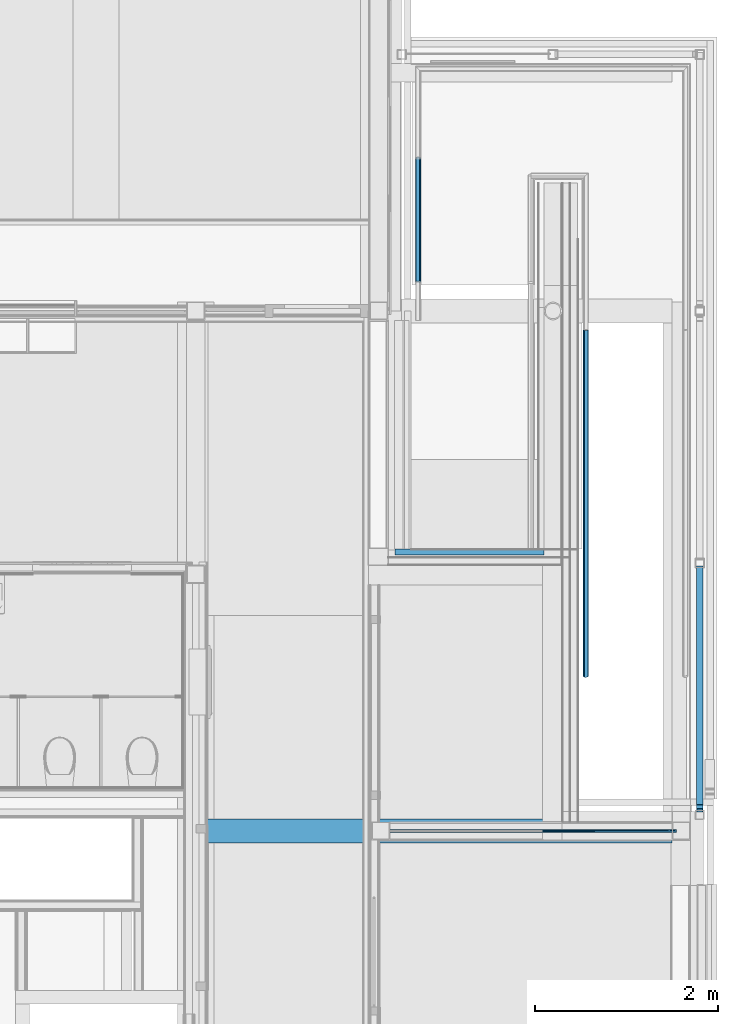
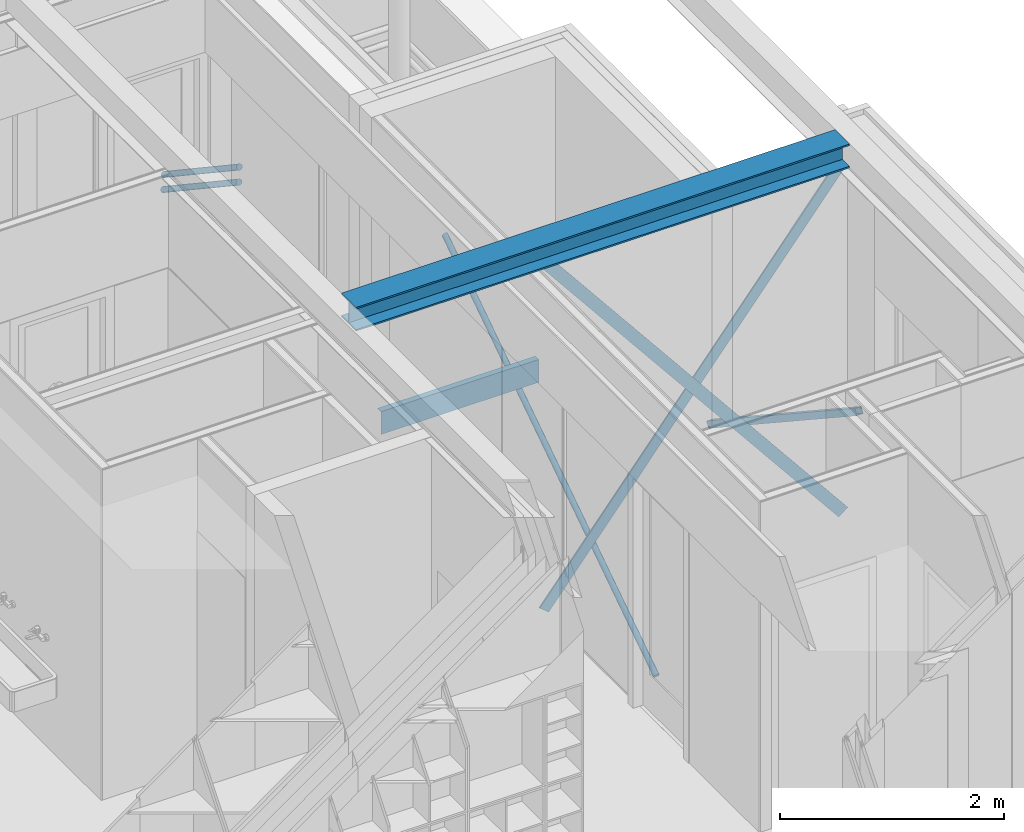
# One storey, part 23 of 137: 5 beams, 3 members, 2 elements without a shape of their own.
"""IFC2X3 building model written with IfcOpenShell, lengths in millimetres."""

import ifcopenshell
import ifcopenshell.guid

model = None  # the IFC model being written
_history = None  # IfcOwnerHistory: only IFC2X3 demands one
_inside = {}  # id of a spatial element -> (the spatial element, [elements in it])
_under = {}  # id of a project, library or spatial element -> (it, [spatial elements below it])
_declared = {}  # id of a project -> (the project, [libraries it declares])
_typed = {}  # id of a type object -> (the type object, [elements of that type])
_made_of = {}  # id of a material, layer set ... -> (it, [elements and type objects made of it])


def new_model(schema):
    """Start an empty IFC model of exactly this schema.

    Asked for "IFC4X3", IfcOpenShell would pick the latest addendum, in which some entities
    have other attributes; the version numbers below select the first issue.
    IFC2X3 requires an IfcOwnerHistory on every rooted entity: one is made here for all.
    """
    global model, _history
    if schema == "IFC4X3":
        model = ifcopenshell.file(schema_version=(4, 3, 0, 0))
    else:
        model = ifcopenshell.file(schema=schema)
    _inside.clear()
    _under.clear()
    _declared.clear()
    _typed.clear()
    _made_of.clear()
    _history = None
    if model.schema == "IFC2X3":
        org = make("IfcOrganization", Name="unknown")
        user = make(
            "IfcPersonAndOrganization",
            ThePerson=make("IfcPerson", FamilyName="unknown"),
            TheOrganization=org,
        )
        app = make(
            "IfcApplication",
            ApplicationDeveloper=org,
            Version="unknown",
            ApplicationFullName="unknown",
            ApplicationIdentifier="unknown",
        )
        _history = make(
            "IfcOwnerHistory",
            OwningUser=user,
            OwningApplication=app,
            ChangeAction="ADDED",
            CreationDate=0,
        )
    return model


def make(cls, **values):
    """One entity of the class cls with the attributes given. An attribute that is None is left unset."""
    return model.create_entity(
        cls, **{name: value for name, value in values.items() if value is not None}
    )


def entity(cls, *values):
    """Any entity or typed value of the class cls, its attributes in the order of the schema. None: left unset."""
    e = model.create_entity(cls)
    for i, value in enumerate(values):
        if value is not None:
            e[i] = value
    return e


def rooted(cls, **values):
    """An entity with a GlobalId (a new one), such as an element, a storey or a relation."""
    return make(cls, GlobalId=ifcopenshell.guid.new(), OwnerHistory=_history, **values)


def si_unit(unit_type, name, prefix=None):
    """IfcSIUnit, for example si_unit("LENGTHUNIT", "METRE", prefix="MILLI")."""
    return make("IfcSIUnit", UnitType=unit_type, Prefix=prefix, Name=name)


def converted_unit(unit_type, name, factor, base, dimensions=None, offset=None):
    """IfcConversionBasedUnit, such as the inch: factor (a typed value) times the base unit."""
    return make(
        "IfcConversionBasedUnit"
        if offset is None
        else "IfcConversionBasedUnitWithOffset",
        ConversionOffset=offset,
        Dimensions=None
        if dimensions is None
        else entity("IfcDimensionalExponents", *dimensions),
        UnitType=unit_type,
        Name=name,
        ConversionFactor=make(
            "IfcMeasureWithUnit", ValueComponent=factor, UnitComponent=base
        ),
    )


def derived_unit(unit_type, elements):
    """IfcDerivedUnit: a product of units, each with its exponent."""
    return make(
        "IfcDerivedUnit",
        Elements=[
            make("IfcDerivedUnitElement", Unit=unit, Exponent=power)
            for unit, power in elements
        ],
        UnitType=unit_type,
    )


def money_unit(currency):
    """IfcMonetaryUnit."""
    return make("IfcMonetaryUnit", Currency=currency)


def assignment(units):
    """IfcUnitAssignment: the units of a project."""
    return None if units is None else make("IfcUnitAssignment", Units=units)


def point(xyz):
    """IfcCartesianPoint."""
    return None if xyz is None else make("IfcCartesianPoint", Coordinates=xyz)


def direction(xyz):
    """IfcDirection."""
    return None if xyz is None else make("IfcDirection", DirectionRatios=xyz)


def frame(location, z_axis=None, x_axis=None):
    """IfcAxis2Placement3D, a coordinate frame: its origin and axes. An axis left out is left unset."""
    return make(
        "IfcAxis2Placement3D",
        Location=point(location),
        Axis=direction(z_axis),
        RefDirection=direction(x_axis),
    )


def origin_with_axes():
    """The frame at (0, 0, 0) with the z axis (0, 0, 1) and the x axis (1, 0, 0) written out."""
    return frame((0.0, 0.0, 0.0), z_axis=(0.0, 0.0, 1.0), x_axis=(1.0, 0.0, 0.0))


def place(relative_to, where):
    """IfcLocalPlacement: puts the frame where relative to a parent placement (None: the world)."""
    return make(
        "IfcLocalPlacement", PlacementRelTo=relative_to, RelativePlacement=where
    )


def context(
    kind, dimensions, precision=None, world=None, true_north=None, identifier=None
):
    """IfcGeometricRepresentationContext, for example the 3D "Model" context."""
    return make(
        "IfcGeometricRepresentationContext",
        ContextIdentifier=identifier,
        ContextType=kind,
        CoordinateSpaceDimension=dimensions,
        Precision=precision,
        WorldCoordinateSystem=world,
        TrueNorth=true_north,
    )


def subcontext(parent, identifier, kind, view, scale=None):
    """IfcGeometricRepresentationSubContext, for example "Body" below "Model"."""
    return make(
        "IfcGeometricRepresentationSubContext",
        ContextIdentifier=identifier,
        ContextType=kind,
        ParentContext=parent,
        TargetScale=scale,
        TargetView=view,
    )


def project(units=None, contexts=None):
    """IfcProject with its units and contexts."""
    return rooted(
        "IfcProject",
        Name="project",
        RepresentationContexts=contexts,
        UnitsInContext=assignment(units),
    )


def spatial(cls, under=None, at=None, **own):
    """A site, building, storey or space (cls), placed at a placement, below another one or the project."""
    s = rooted(cls, ObjectPlacement=at, **own)
    if under is not None:
        _under.setdefault(under.id(), (under, []))[1].append(s)
    return s


def faces_of(points, faces, orient=None, outer=None):
    """IfcFace entities. A face is a list of loops; a loop is a list of indices into points, from 0.

    orient and outer hold one flag for each loop. By default every Orientation is true, the
    first loop of a face is its IfcFaceOuterBound and the others are IfcFaceBound.
    """
    made = []
    for i, loops in enumerate(faces):
        bounds = []
        for j, loop in enumerate(loops):
            is_outer = j == 0 if outer is None else outer[i][j]
            bounds.append(
                make(
                    "IfcFaceOuterBound" if is_outer else "IfcFaceBound",
                    Bound=make("IfcPolyLoop", Polygon=[points[k] for k in loop]),
                    Orientation=True if orient is None else orient[i][j],
                )
            )
        made.append(make("IfcFace", Bounds=bounds))
    return made


def faceted_brep(points, faces, orient=None, outer=None, voids=None):
    """IfcFacetedBrep: a solid bounded by flat faces; with voids (closed shells), ...WithVoids."""
    shared = [point(p) for p in points]
    hull = make("IfcClosedShell", CfsFaces=faces_of(shared, faces, orient, outer))
    if voids is None:
        return make("IfcFacetedBrep", Outer=hull)
    return make(
        "IfcFacetedBrepWithVoids",
        Outer=hull,
        Voids=[
            make(cls, CfsFaces=faces_of(shared, fs, o, b)) for cls, fs, o, b in voids
        ],
    )


def shape(context_of_items, identifier, shape_type, items):
    """IfcShapeRepresentation: the items that make up one representation, for example the "Body"."""
    return make(
        "IfcShapeRepresentation",
        ContextOfItems=context_of_items,
        RepresentationIdentifier=identifier,
        RepresentationType=shape_type,
        Items=items,
    )


def material(Name=None, Category=None):
    """IfcMaterial."""
    return make("IfcMaterial", Name=Name, Category=Category)


def made_of(thing, what):
    """Note that an element or type object is made of a material, layer set ...; save() writes the relation."""
    if what is not None:
        _made_of.setdefault(what.id(), (what, []))[1].append(thing)
    return thing


def type_object(cls, material=None, **own):
    """A type object (cls), such as IfcWallType, which elements share."""
    return made_of(rooted(cls, **own), material)


def element(
    cls,
    number,
    at=None,
    inside=None,
    cuts=None,
    type_object=None,
    material=None,
    context=None,
    identifier="Body",
    shape_type=None,
    held_by="IfcProductDefinitionShape",
    body=None,
    shapes=None,
    **own,
):
    """One element of the class cls, such as IfcWall. Its Tag is "e" and its number.

    at: its placement. inside: the storey or other place that contains it. cuts: it is an
    opening in that element (IfcRelVoidsElement). A single representation is given by context,
    identifier, shape_type and body (its items); several are given by shapes. held_by: the class
    of the entity that holds the representations. save() writes the other relations.
    """
    e = rooted(cls, Tag="e%d" % number, ObjectPlacement=at, **own)
    if body is not None:
        shapes = [shape(context, identifier, shape_type, body)]
    if shapes is not None:
        e.Representation = make(held_by, Representations=shapes)
    if inside is not None:
        _inside.setdefault(inside.id(), (inside, []))[1].append(e)
    if cuts is not None:
        rooted(
            "IfcRelVoidsElement", RelatingBuildingElement=cuts, RelatedOpeningElement=e
        )
    if type_object is not None:
        _typed.setdefault(type_object.id(), (type_object, []))[1].append(e)
    return made_of(e, material)


def aggregate(whole, parts):
    """IfcRelAggregates: a whole, such as a stair, and the parts it consists of."""
    return rooted("IfcRelAggregates", RelatingObject=whole, RelatedObjects=parts)


def save(model, path):
    """Write the relations noted so far, then the file.

    IfcRelAggregates (storeys below a building ...), IfcRelContainedInSpatialStructure (elements
    in a storey), IfcRelDefinesByType, IfcRelAssociatesMaterial and IfcRelDeclares: one each for
    every whole, place, type object, material and project.
    """
    for whole, parts in _under.values():
        aggregate(whole, parts)
    for where, things in _inside.values():
        rooted(
            "IfcRelContainedInSpatialStructure",
            RelatedElements=things,
            RelatingStructure=where,
        )
    for kind, things in _typed.values():
        rooted("IfcRelDefinesByType", RelatedObjects=things, RelatingType=kind)
    for what, things in _made_of.values():
        rooted("IfcRelAssociatesMaterial", RelatedObjects=things, RelatingMaterial=what)
    for by, libraries in _declared.values():
        rooted("IfcRelDeclares", RelatingContext=by, RelatedDefinitions=libraries)
    model.write(path)


model = new_model("IFC2X3")

# Units and contexts
model_context = context("Model", 3, precision=0.01, world=origin_with_axes(), true_north=direction((0.0, 1.0)))
body_context = subcontext(model_context, "Body", "Model", "MODEL_VIEW")
ifc_project = project(units=[si_unit("LENGTHUNIT", "METRE", prefix="MILLI"), si_unit("AREAUNIT", "SQUARE_METRE"), si_unit("VOLUMEUNIT", "CUBIC_METRE"), converted_unit("PLANEANGLEUNIT", "DEGREE", entity("IfcPlaneAngleMeasure", 0.0174532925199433), si_unit("PLANEANGLEUNIT", "RADIAN"), dimensions=[0, 0, 0, 0, 0, 0, 0]), money_unit("EUR"), converted_unit("TIMEUNIT", "Year", entity("IfcTimeMeasure", 31556926.0), si_unit("TIMEUNIT", "SECOND"), dimensions=[0, 0, 1, 0, 0, 0, 0]), si_unit("MASSUNIT", "GRAM", prefix="KILO"), si_unit("THERMODYNAMICTEMPERATUREUNIT", "DEGREE_CELSIUS"), si_unit("LUMINOUSINTENSITYUNIT", "LUMEN"), si_unit("ENERGYUNIT", "JOULE", prefix="MEGA"), derived_unit("THERMALCONDUCTANCEUNIT", [(si_unit("POWERUNIT", "WATT"), 1), (si_unit("LENGTHUNIT", "METRE"), -1), (si_unit("THERMODYNAMICTEMPERATUREUNIT", "KELVIN"), -1)]), derived_unit("SPECIFICHEATCAPACITYUNIT", [(si_unit("ENERGYUNIT", "JOULE"), 1), (si_unit("MASSUNIT", "GRAM", prefix="KILO"), -1), (si_unit("THERMODYNAMICTEMPERATUREUNIT", "KELVIN"), -1)]), derived_unit("MASSDENSITYUNIT", [(si_unit("MASSUNIT", "GRAM", prefix="KILO"), 1), (si_unit("VOLUMEUNIT", "CUBIC_METRE"), -1)])], contexts=[model_context])

# Site, building, storey
site_placement = place(None, origin_with_axes())
site = spatial("IfcSite", under=ifc_project, at=site_placement, Name="Site", CompositionType="ELEMENT")
building_placement = place(site_placement, origin_with_axes())
building = spatial("IfcBuilding", under=site, at=building_placement, Name="Naam gebouw", CompositionType="ELEMENT")
storey_placement = place(building_placement, frame((0.0, 0.0, 3960.0), z_axis=(0.0, 0.0, 1.0), x_axis=(1.0, 0.0, 0.0)))
storey = spatial("IfcBuildingStorey", under=building, at=storey_placement, Name="1e verdieping", CompositionType="ELEMENT", Elevation=3960.0)

# Beams
ifc_material_1 = material(Name="Metaal - Staal C")
beam_type_1 = type_object("IfcBeamType", Name="HEB260 260 x 260", PredefinedType="BEAM")
beam_1_placement = place(storey_placement, frame((29698.99999955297, 16649.99778166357, 3730.0), z_axis=(0.0, 0.0, 1.0), x_axis=(0.0, 1.0, 0.0)))
element("IfcBeam", 1, at=beam_1_placement, inside=storey, type_object=beam_type_1, material=ifc_material_1, Name="h METAAL_Regenwaterafvoer-x", ObjectType="BEAM", context=body_context, shape_type="Brep", body=[
    faceted_brep([(-4.999999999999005, 5098.000959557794, -112.4999999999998), (-4.999999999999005, 3032.612012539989, -112.4999999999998), (-4.999999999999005, 3032.339650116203, -112.2798225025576), (-4.999999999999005, 3032.161658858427, -112.4999999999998), (-4.999999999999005, 0.0, -112.4999999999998), (-4.999999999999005, 0.0, 112.4999999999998), (-4.999999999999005, 5098.000959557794, 112.4999999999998), (-15.00000000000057, 3032.161658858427, -112.4999999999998), (-15.00000000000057, 3032.612012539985, -112.4999999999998), (-129.999999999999, 5098.000959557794, -112.4999999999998), (-129.999999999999, 0.0, -112.4999999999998), (0.0, 3032.339650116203, -112.2798225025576), (-15.00000000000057, 3054.259739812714, -129.9999999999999), (0.0, 3054.259739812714, -129.9999999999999), (0.0, 3018.014677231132, -129.9999999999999), (-15.00000000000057, 3018.014677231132, -129.9999999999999), (4.999999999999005, 0.0, 112.4999999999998), (129.999999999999, 0.0, 112.4999999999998), (129.999999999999, 0.0, 129.9999999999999), (-129.999999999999, 0.0, 129.9999999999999), (-129.999999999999, 0.0, 112.4999999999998), (-129.999999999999, 0.0, -129.9999999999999), (129.999999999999, 0.0, -129.9999999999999), (129.999999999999, 0.0, -112.4999999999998), (4.999999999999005, 0.0, -112.4999999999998), (-129.999999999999, 5098.000959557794, 112.4999999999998), (-129.999999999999, 5098.000959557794, 129.9999999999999), (129.999999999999, 5098.000959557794, 129.9999999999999), (129.999999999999, 5098.000959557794, 112.4999999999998), (4.999999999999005, 5098.000959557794, 112.4999999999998), (4.999999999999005, 5098.000959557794, -112.4999999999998), (129.999999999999, 5098.000959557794, -112.4999999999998), (129.999999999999, 5098.000959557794, -129.9999999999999), (-129.999999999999, 5098.000959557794, -129.9999999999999), (15.00000000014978, 23.74025929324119, -129.9999999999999), (15.00000000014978, 59.98532187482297, -129.9999999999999), (1.49213974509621e-10, 59.98532187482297, -129.9999999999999), (1.49213974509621e-10, 23.74025929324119, -129.9999999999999), (4.999999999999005, 45.83834024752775, -112.4999999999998), (15.00000000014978, 45.83834024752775, -112.4999999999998), (15.00000000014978, 45.38798656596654, -112.4999999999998), (4.999999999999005, 45.38798656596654, -112.4999999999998), (4.999999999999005, 45.66034898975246, -112.2798225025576), (1.49213974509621e-10, 45.66034898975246, -112.2798225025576)], [[[0, 1, 2, 3, 4, 5, 6]], [[7, 8, 1, 0, 9, 10, 4, 3]], [[11, 2, 1, 8, 12, 13]], [[11, 14, 15, 7, 3, 2]], [[16, 17, 18, 19, 20, 5, 4, 10, 21, 22, 23, 24]], [[6, 5, 20, 25]], [[0, 6, 25, 26, 27, 28, 29, 30, 31, 32, 33, 9]], [[7, 15, 12, 8]], [[33, 21, 10, 9]], [[32, 22, 21, 33], [34, 35, 36, 37], [13, 12, 15, 14]], [[11, 13, 14]], [[28, 17, 16, 29]], [[27, 18, 17, 28]], [[26, 19, 18, 27]], [[25, 20, 19, 26]], [[31, 23, 22, 32]], [[31, 30, 38, 39, 40, 41, 24, 23]], [[24, 41, 42, 38, 30, 29, 16]], [[40, 39, 35, 34]], [[35, 39, 38, 42, 43, 36]], [[36, 43, 37]], [[41, 40, 34, 37, 43, 42]]]),
])
beam_type_2 = type_object("IfcBeamType", Name="Metaal - Staal C 15 x 120", PredefinedType="BEAM")
beam_2_placement = place(storey_placement, frame((29699.99999999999, 16634.99778166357, -230.0), z_axis=(0.0, 0.0, 1.0), x_axis=(0.0, 1.0, 0.0)))
element("IfcBeam", 2, at=beam_2_placement, inside=storey, type_object=beam_type_2, material=ifc_material_1, Name="h METAAL_Regenwaterafvoer-x", ObjectType="BEAM", context=body_context, shape_type="Brep", body=[
    faceted_brep([(0.0, 46.66034943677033, -37.72017749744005), (0.0, 3126.660349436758, 3772.27982250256), (15.00000000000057, 3126.660349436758, 3772.27982250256), (15.00000000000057, 46.66034943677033, -37.72017749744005), (0.0, -46.66034943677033, 37.72017749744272), (0.0, 3033.339650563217, 3847.720177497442), (15.00000000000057, 3033.339650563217, 3847.720177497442), (15.00000000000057, -46.66034943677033, 37.72017749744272)], [[[0, 1, 2, 3]], [[4, 5, 1, 0]], [[2, 1, 5, 6]], [[3, 2, 6, 7]], [[4, 0, 3, 7]], [[7, 6, 5, 4]]]),
])
beam_3_placement = place(storey_placement, frame((26620.0, 16664.99778166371, -230.0), z_axis=(0.0, 0.0, 1.0), x_axis=(0.0, -1.0, 0.0)))
element("IfcBeam", 3, at=beam_3_placement, inside=storey, type_object=beam_type_2, material=ifc_material_1, Name="h METAAL_Regenwaterafvoer-x", ObjectType="BEAM", context=body_context, shape_type="Brep", body=[
    faceted_brep([(0.0, 46.66034943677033, -37.72017749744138), (0.0, 3126.660349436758, 3772.27982250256), (15.00000000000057, 3126.660349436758, 3772.27982250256), (15.00000000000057, 46.66034943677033, -37.72017749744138), (0.0, -46.66034943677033, 37.72017749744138), (0.0, 3033.339650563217, 3847.720177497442), (15.00000000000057, 3033.339650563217, 3847.720177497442), (15.00000000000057, -46.66034943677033, 37.72017749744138)], [[[0, 1, 2, 3]], [[4, 5, 1, 0]], [[2, 1, 5, 6]], [[3, 2, 6, 7]], [[4, 0, 3, 7]], [[7, 6, 5, 4]]]),
])

# Railing, members
railing_type = type_object("IfcRailingType", Name="Railing Type", PredefinedType="NOTDEFINED")
railing_1_placement = place(storey_placement, frame((29909.99996519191, 18712.73639114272, -3419.999937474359), z_axis=(0.0, 0.0, 1.0), x_axis=(1.0, 0.0, 0.0)))
railing_1 = element("IfcRailing", 4, at=railing_1_placement, inside=storey, type_object=railing_type, Name="34_Reling-x", PredefinedType="NOTDEFINED")
ifc_material_2 = material(Name="Metaal - RVS")
member_type = type_object("IfcMemberType", Name="IfcMember", PredefinedType="USERDEFINED")
member_1_placement = place(railing_1_placement, frame((-2979.999965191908, 4607.239833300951, 3177.573593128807), z_axis=(0.0, 0.0, 1.0), x_axis=(1.0, 0.0, 0.0)))
member_1 = element("IfcMember", 5, at=member_1_placement, type_object=member_type, material=ifc_material_2, Name="h3 Staal legeringen_Regel-x", context=body_context, shape_type="Brep", body=[
    faceted_brep([(29.99999999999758, 674.9999999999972, 42.42640687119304), (29.54423259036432, 676.57729313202, 47.63585220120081), (29.54423258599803, -673.4227067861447, 947.6358522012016), (30.00000000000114, -674.9999999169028, 942.4264068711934), (29.54423259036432, 673.4227068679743, 37.21696154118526), (28.19077862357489, 671.8933389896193, 32.1658025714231), (25.98076211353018, 670.4583654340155, 27.42640687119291), (22.98133329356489, 669.1613871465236, 23.14277858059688), (19.28362829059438, 668.0418121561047, 19.44507357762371), (14.99999999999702, 667.1336581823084, 16.44564475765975), (10.26060429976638, 666.4645190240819, 14.23562824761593), (5.209445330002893, 666.0547261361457, 12.88217428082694), (0.0, 665.9167308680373, 12.42640687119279), (-5.209445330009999, 666.0547261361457, 12.88217428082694), (-10.26060429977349, 666.4645190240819, 14.23562824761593), (-15.00000000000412, 667.1336581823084, 16.44564475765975), (-19.28362829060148, 668.0418121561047, 19.44507357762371), (-22.98133329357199, 669.1613871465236, 23.14277858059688), (-25.98076211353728, 670.4583654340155, 27.42640687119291), (-28.19077862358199, 671.8933389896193, 32.1658025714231), (-29.54423259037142, 673.4227068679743, 37.21696154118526), (-30.00000000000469, 674.9999999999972, 42.42640687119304), (-29.54423259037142, 676.57729313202, 47.63585220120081), (-28.19077862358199, 678.106661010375, 52.68701117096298), (-25.98076211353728, 679.5416345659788, 57.42640687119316), (-22.98133329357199, 680.8386128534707, 61.71003516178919), (-19.28362829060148, 681.9581878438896, 65.40774016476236), (-15.00000000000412, 682.8663418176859, 68.40716898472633), (-10.26060429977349, 683.5354809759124, 70.61718549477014), (-5.209445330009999, 683.9452738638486, 71.97063946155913), (0.0, 684.083269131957, 72.42640687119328), (5.209445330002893, 683.9452738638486, 71.97063946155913), (10.26060429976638, 683.5354809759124, 70.61718549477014), (14.99999999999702, 682.8663418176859, 68.40716898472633), (19.28362829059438, 681.9581878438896, 65.40774016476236), (22.98133329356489, 680.8386128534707, 61.71003516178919), (25.98076211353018, 679.5416345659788, 57.42640687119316), (28.19077862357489, 678.106661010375, 52.68701117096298), (28.19077861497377, -671.8933389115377, 952.6870111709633), (25.98076210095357, -670.4583653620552, 957.4264068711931), (22.98133327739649, -669.1613870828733, 961.7100351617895), (19.28362827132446, -668.0418121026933, 965.4077401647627), (14.99999997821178, -667.1336581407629, 968.4071689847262), (10.26060427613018, -666.4645189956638, 970.617185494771), (5.209445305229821, -666.0547261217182, 971.9706394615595), (-2.516031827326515e-08, -665.9167308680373, 972.4264068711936), (-5.209445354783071, -666.0547261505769, 971.9706394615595), (-10.26060432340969, -666.4645190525, 970.617185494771), (-15.00000002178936, -667.1336582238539, 968.4071689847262), (-19.28362830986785, -668.0418122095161, 965.4077401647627), (-22.98133330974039, -669.1613872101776, 961.7100351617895), (-25.98076212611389, -670.4583655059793, 957.4264068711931), (-28.19077863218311, -671.8933390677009, 952.6870111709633), (-29.54423259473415, -673.422706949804, 947.6358522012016), (-30.00000000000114, -675.0000000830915, 942.4264068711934), (-29.54423258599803, -676.5772932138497, 937.2169615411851), (-28.19077861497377, -678.1066610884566, 932.1658025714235), (-25.98076210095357, -679.5416346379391, 927.4264068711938), (-22.98133327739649, -680.838612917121, 923.1427785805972), (-19.28362827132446, -681.9581878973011, 919.445073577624), (-14.99999997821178, -682.8663418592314, 916.4456447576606), (-10.26060427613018, -683.5354810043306, 914.2356282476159), (-5.209445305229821, -683.9452738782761, 912.8821742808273), (2.516031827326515e-08, -684.083269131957, 912.4264068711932), (5.209445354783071, -683.9452738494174, 912.8821742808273), (10.26060432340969, -683.5354809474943, 914.2356282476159), (15.00000002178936, -682.8663417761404, 916.4456447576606), (19.28362830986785, -681.9581877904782, 919.445073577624), (22.98133330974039, -680.8386127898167, 923.1427785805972), (25.98076212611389, -679.541634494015, 927.4264068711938), (28.19077863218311, -678.1066609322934, 932.1658025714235), (29.54423259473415, -676.5772930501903, 937.2169615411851)], [[[0, 1, 2, 3]], [[0, 4, 5, 6, 7, 8, 9, 10, 11, 12, 13, 14, 15, 16, 17, 18, 19, 20, 21, 22, 23, 24, 25, 26, 27, 28, 29, 30, 31, 32, 33, 34, 35, 36, 37, 1]], [[1, 37, 38, 2]], [[3, 2, 38, 39, 40, 41, 42, 43, 44, 45, 46, 47, 48, 49, 50, 51, 52, 53, 54, 55, 56, 57, 58, 59, 60, 61, 62, 63, 64, 65, 66, 67, 68, 69, 70, 71]], [[4, 0, 3, 71]], [[5, 4, 71, 70]], [[6, 5, 70, 69]], [[7, 6, 69, 68]], [[8, 7, 68, 67]], [[9, 8, 67, 66]], [[10, 9, 66, 65]], [[11, 10, 65, 64]], [[12, 11, 64, 63]], [[13, 12, 63, 62]], [[14, 13, 62, 61]], [[15, 14, 61, 60]], [[16, 15, 60, 59]], [[17, 16, 59, 58]], [[18, 17, 58, 57]], [[19, 18, 57, 56]], [[20, 19, 56, 55]], [[21, 20, 55, 54]], [[22, 21, 54, 53]], [[23, 22, 53, 52]], [[24, 23, 52, 51]], [[25, 24, 51, 50]], [[26, 25, 50, 49]], [[27, 26, 49, 48]], [[28, 27, 48, 47]], [[29, 28, 47, 46]], [[30, 29, 46, 45]], [[31, 30, 45, 44]], [[32, 31, 44, 43]], [[33, 32, 43, 42]], [[34, 33, 42, 41]], [[35, 34, 41, 40]], [[36, 35, 40, 39]], [[37, 36, 39, 38]]]),
])
member_2_placement = place(railing_1_placement, frame((-2979.999965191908, 4607.239833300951, 3352.917960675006), z_axis=(0.0, 0.0, 1.0), x_axis=(1.0, 0.0, 0.0)))
member_2 = element("IfcMember", 6, at=member_2_placement, type_object=member_type, material=ifc_material_2, Name="h3 Staal legeringen_", context=body_context, shape_type="Brep", body=[
    faceted_brep([(29.99999999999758, 665.9167308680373, 37.08203932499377), (29.54423259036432, 667.4940240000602, 42.29148465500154), (29.5442326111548, -682.5059759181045, 942.2914846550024), (30.0000000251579, -684.0832690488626, 937.0820393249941), (29.54423259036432, 664.3394377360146, 31.87259399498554), (28.19077862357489, 662.8100698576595, 26.82143502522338), (25.98076211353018, 661.3750963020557, 22.08203932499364), (22.98133329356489, 660.0781180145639, 17.79841103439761), (19.28362829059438, 658.9585430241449, 14.10070603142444), (14.99999999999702, 658.0503890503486, 11.10127721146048), (10.26060429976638, 657.3812498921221, 8.891260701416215), (5.209445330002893, 656.971457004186, 7.537806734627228), (0.0, 656.8334617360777, 7.082039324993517), (-5.209445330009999, 656.971457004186, 7.537806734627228), (-10.26060429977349, 657.3812498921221, 8.891260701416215), (-15.00000000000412, 658.0503890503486, 11.10127721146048), (-19.28362829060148, 658.9585430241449, 14.10070603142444), (-22.98133329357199, 660.0781180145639, 17.79841103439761), (-25.98076211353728, 661.3750963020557, 22.08203932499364), (-28.19077862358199, 662.8100698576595, 26.82143502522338), (-29.54423259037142, 664.3394377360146, 31.87259399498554), (-30.00000000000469, 665.9167308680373, 37.08203932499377), (-29.54423259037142, 667.4940240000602, 42.29148465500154), (-28.19077862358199, 669.0233918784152, 47.3426436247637), (-25.98076211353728, 670.4583654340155, 52.08203932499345), (-22.98133329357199, 671.7553437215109, 56.36566761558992), (-19.28362829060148, 672.8749187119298, 60.06337261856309), (-15.00000000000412, 673.7830726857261, 63.06280143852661), (-10.26060429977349, 674.4522118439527, 65.27281794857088), (-5.209445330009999, 674.8620047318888, 66.62627191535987), (0.0, 674.9999999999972, 67.08203932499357), (5.209445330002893, 674.8620047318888, 66.62627191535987), (10.26060429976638, 674.4522118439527, 65.27281794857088), (14.99999999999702, 673.7830726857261, 63.06280143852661), (19.28362829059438, 672.8749187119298, 60.06337261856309), (22.98133329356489, 671.7553437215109, 56.36566761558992), (25.98076211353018, 670.4583654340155, 52.08203932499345), (28.19077862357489, 669.0233918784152, 47.3426436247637), (28.19077864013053, -680.9766080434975, 947.342643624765), (25.98076212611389, -679.541634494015, 952.0820393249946), (22.98133330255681, -678.244656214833, 956.3656676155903), (19.28362829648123, -677.125081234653, 960.0633726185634), (15.00000000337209, -676.2169272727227, 963.0628014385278), (10.26060430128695, -675.5477881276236, 965.2728179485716), (5.209445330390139, -675.137995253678, 966.6262719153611), (0.0, -674.9999999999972, 967.0820393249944), (-5.209445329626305, -675.1379952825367, 966.6262719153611), (-10.26060429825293, -675.5477881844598, 965.2728179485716), (-14.99999999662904, -676.2169273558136, 963.0628014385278), (-19.28362828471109, -677.125081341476, 960.0633726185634), (-22.98133328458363, -678.2446563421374, 956.3656676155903), (-25.98076210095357, -679.5416346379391, 952.0820393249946), (-28.19077860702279, -680.9766081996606, 947.342643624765), (-29.54423256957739, -682.5059760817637, 942.2914846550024), (-29.99999997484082, -684.0832692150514, 937.0820393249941), (-29.54423256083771, -685.6605623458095, 931.8725939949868), (-28.19077858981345, -687.1899302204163, 926.8214350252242), (-25.9807620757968, -688.6249037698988, 922.0820393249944), (-22.98133325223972, -689.9218820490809, 917.798411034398), (-19.28362824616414, -691.0414570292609, 914.1007060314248), (-14.99999995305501, -691.9496109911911, 911.1012772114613), (-10.26060425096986, -692.6187501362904, 908.8912607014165), (-5.209445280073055, -693.0285430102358, 907.537806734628), (5.031708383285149e-08, -693.1665382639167, 907.0820393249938), (5.209445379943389, -693.0285429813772, 907.537806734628), (10.26060434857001, -692.618750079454, 908.8912607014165), (15.00000004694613, -691.9496109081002, 911.1012772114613), (19.28362833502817, -691.0414569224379, 914.1007060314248), (22.98133333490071, -689.9218819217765, 917.798411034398), (25.98076215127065, -688.6249036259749, 922.0820393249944), (28.19077865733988, -687.1899300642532, 926.8214350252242), (29.54423261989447, -685.6605621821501, 931.8725939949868)], [[[0, 1, 2, 3]], [[0, 4, 5, 6, 7, 8, 9, 10, 11, 12, 13, 14, 15, 16, 17, 18, 19, 20, 21, 22, 23, 24, 25, 26, 27, 28, 29, 30, 31, 32, 33, 34, 35, 36, 37, 1]], [[1, 37, 38, 2]], [[3, 2, 38, 39, 40, 41, 42, 43, 44, 45, 46, 47, 48, 49, 50, 51, 52, 53, 54, 55, 56, 57, 58, 59, 60, 61, 62, 63, 64, 65, 66, 67, 68, 69, 70, 71]], [[4, 0, 3, 71]], [[5, 4, 71, 70]], [[6, 5, 70, 69]], [[7, 6, 69, 68]], [[8, 7, 68, 67]], [[9, 8, 67, 66]], [[10, 9, 66, 65]], [[11, 10, 65, 64]], [[12, 11, 64, 63]], [[13, 12, 63, 62]], [[14, 13, 62, 61]], [[15, 14, 61, 60]], [[16, 15, 60, 59]], [[17, 16, 59, 58]], [[18, 17, 58, 57]], [[19, 18, 57, 56]], [[20, 19, 56, 55]], [[21, 20, 55, 54]], [[22, 21, 54, 53]], [[23, 22, 53, 52]], [[24, 23, 52, 51]], [[25, 24, 51, 50]], [[26, 25, 50, 49]], [[27, 26, 49, 48]], [[28, 27, 48, 47]], [[29, 28, 47, 46]], [[30, 29, 46, 45]], [[31, 30, 45, 44]], [[32, 31, 44, 43]], [[33, 32, 43, 42]], [[34, 33, 42, 41]], [[35, 34, 41, 40]], [[36, 35, 40, 39]], [[37, 36, 39, 38]]]),
])
aggregate(railing_1, [member_1, member_2])

# Railing, member
railing_2_placement = place(storey_placement, frame((28276.00002397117, 22221.00039272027, -3419.999916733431), z_axis=(0.0, 0.0, 1.0), x_axis=(1.0, 0.0, 0.0)))
railing_2 = element("IfcRailing", 7, at=railing_2_placement, inside=storey, type_object=railing_type, Name="34_Reling-x", PredefinedType="NOTDEFINED")
member_3_placement = place(railing_2_placement, frame((479.9999999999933, -1988.263997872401, 657.5735931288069), z_axis=(0.0, 0.0, 1.0), x_axis=(1.0, 0.0, 0.0)))
member_3 = element("IfcMember", 8, at=member_3_placement, type_object=member_type, material=ifc_material_2, Name="h3 Staal legeringen_Regel-x", context=body_context, shape_type="Brep", body=[
    faceted_brep([(30.00000000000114, 1890.0, 2562.426386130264), (29.54423259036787, 1888.422706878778, 2567.635831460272), (29.54423259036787, -1892.889680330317, 46.76092740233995), (30.00000000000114, -1890.0, 42.42640687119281), (29.54423259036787, 1891.577293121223, 2557.216940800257), (28.19077862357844, 1893.106660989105, 2552.165781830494), (25.98076211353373, 1894.541634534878, 2547.426386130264), (22.98133329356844, 1895.838612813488, 2543.142757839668), (19.28362829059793, 1896.958187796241, 2539.445052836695), (15.00000000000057, 1897.866341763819, 2536.445624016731), (10.26060429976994, 1898.535480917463, 2534.235607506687), (5.209445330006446, 1898.945273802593, 2532.882153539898), (0.0, 1899.083269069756, 2532.426386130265), (-5.209445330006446, 1898.945273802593, 2532.882153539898), (-10.26060429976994, 1898.535480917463, 2534.235607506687), (-15.00000000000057, 1897.866341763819, 2536.445624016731), (-19.28362829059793, 1896.958187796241, 2539.445052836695), (-22.98133329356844, 1895.838612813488, 2543.142757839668), (-25.98076211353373, 1894.541634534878, 2547.426386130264), (-28.19077862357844, 1893.106660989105, 2552.165781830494), (-29.54423259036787, 1891.577293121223, 2557.216940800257), (-30.00000000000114, 1890.0, 2562.426386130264), (-29.54423259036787, 1888.422706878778, 2567.635831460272), (-28.19077862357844, 1886.893339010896, 2572.686990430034), (-25.98076211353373, 1885.458365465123, 2577.426386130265), (-22.98133329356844, 1884.161387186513, 2581.71001442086), (-19.28362829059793, 1883.041812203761, 2585.407719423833), (-15.00000000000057, 1882.133658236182, 2588.407148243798), (-10.26060429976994, 1881.464519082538, 2590.617164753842), (-5.209445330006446, 1881.054726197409, 2591.97061872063), (0.0, 1880.916730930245, 2592.426386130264), (5.209445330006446, 1881.054726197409, 2591.97061872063), (10.26060429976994, 1881.464519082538, 2590.617164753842), (15.00000000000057, 1882.133658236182, 2588.407148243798), (19.28362829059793, 1883.041812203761, 2585.407719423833), (22.98133329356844, 1884.161387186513, 2581.71001442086), (25.98076211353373, 1885.458365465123, 2577.426386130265), (28.19077862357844, 1886.893339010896, 2572.686990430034), (28.19077862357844, -1895.691559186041, 50.9637457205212), (25.98076211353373, -1898.320502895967, 54.90716131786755), (22.98133329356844, -1900.69663233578, 58.47135550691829), (19.28362829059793, -1902.747750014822, 61.54803205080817), (15.00000000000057, -1904.411533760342, 64.04370768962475), (10.26060429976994, -1905.637430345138, 65.8825525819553), (5.209445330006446, -1906.38819152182, 67.00869435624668), (0.0, -1906.641005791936, 67.38791576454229), (-5.209445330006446, -1906.38819152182, 67.00869435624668), (-10.26060429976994, -1905.637430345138, 65.8825525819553), (-15.00000000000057, -1904.411533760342, 64.04370768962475), (-19.28362829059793, -1902.747750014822, 61.54803205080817), (-22.98133329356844, -1900.69663233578, 58.47135550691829), (-25.98076211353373, -1898.320502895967, 54.90716131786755), (-28.19077862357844, -1895.691559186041, 50.9637457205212), (-29.54423259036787, -1892.889680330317, 46.76092740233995), (-30.00000000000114, -1890.0, 42.42640687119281), (-29.54423259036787, -1887.110319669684, 38.09188634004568), (-28.19077862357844, -1884.30844081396, 33.88906802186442), (-25.98076211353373, -1881.679497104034, 29.94565242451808), (-22.98133329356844, -1879.303367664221, 26.38145823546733), (-19.28362829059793, -1877.25224998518, 23.30478169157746), (-15.00000000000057, -1875.588466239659, 20.80910605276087), (-10.26060429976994, -1874.362569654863, 18.97026116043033), (-5.209445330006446, -1873.611808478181, 17.84411938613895), (0.0, -1873.358994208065, 17.46489797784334), (5.209445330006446, -1873.611808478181, 17.84411938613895), (10.26060429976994, -1874.362569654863, 18.97026116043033), (15.00000000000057, -1875.588466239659, 20.80910605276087), (19.28362829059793, -1877.25224998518, 23.30478169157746), (22.98133329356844, -1879.303367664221, 26.38145823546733), (25.98076211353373, -1881.679497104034, 29.94565242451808), (28.19077862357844, -1884.30844081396, 33.88906802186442), (29.54423259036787, -1887.110319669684, 38.09188634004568)], [[[0, 1, 2, 3]], [[0, 4, 5, 6, 7, 8, 9, 10, 11, 12, 13, 14, 15, 16, 17, 18, 19, 20, 21, 22, 23, 24, 25, 26, 27, 28, 29, 30, 31, 32, 33, 34, 35, 36, 37, 1]], [[1, 37, 38, 2]], [[3, 2, 38, 39, 40, 41, 42, 43, 44, 45, 46, 47, 48, 49, 50, 51, 52, 53, 54, 55, 56, 57, 58, 59, 60, 61, 62, 63, 64, 65, 66, 67, 68, 69, 70, 71]], [[4, 0, 3, 71]], [[5, 4, 71, 70]], [[6, 5, 70, 69]], [[7, 6, 69, 68]], [[8, 7, 68, 67]], [[9, 8, 67, 66]], [[10, 9, 66, 65]], [[11, 10, 65, 64]], [[12, 11, 64, 63]], [[13, 12, 63, 62]], [[14, 13, 62, 61]], [[15, 14, 61, 60]], [[16, 15, 60, 59]], [[17, 16, 59, 58]], [[18, 17, 58, 57]], [[19, 18, 57, 56]], [[20, 19, 56, 55]], [[21, 20, 55, 54]], [[22, 21, 54, 53]], [[23, 22, 53, 52]], [[24, 23, 52, 51]], [[25, 24, 51, 50]], [[26, 25, 50, 49]], [[27, 26, 49, 48]], [[28, 27, 48, 47]], [[29, 28, 47, 46]], [[30, 29, 46, 45]], [[31, 30, 45, 44]], [[32, 31, 44, 43]], [[33, 32, 43, 42]], [[34, 33, 42, 41]], [[35, 34, 41, 40]], [[36, 35, 40, 39]], [[37, 36, 39, 38]]]),
])
aggregate(railing_2, [member_3])

# Beams
ifc_material_3 = material(Name="47 waterdichte laag - bitumen")
beam_type_3 = type_object("IfcBeamType", Name="41 Plint stucwerk 62 x 250", PredefinedType="BEAM")
beam_4_placement = place(storey_placement, frame((26677.0, 19726.00039292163, 89.99999999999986), z_axis=(0.0, 0.0, 1.0), x_axis=(0.0, -1.0, 0.0)))
element("IfcBeam", 9, at=beam_4_placement, inside=storey, type_object=beam_type_3, material=ifc_material_3, Name="g2- Gebakken klei_Regenwaterafvoer-x", ObjectType="BEAM", context=body_context, shape_type="Brep", body=[
    faceted_brep([(0.0, 0.0, 0.0), (0.0, 1627.000023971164, 0.0), (0.0, 1627.000023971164, -4.000000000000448), (0.0, 0.0, -4.000000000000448), (62.00000000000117, 0.0, 0.0), (62.00000000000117, 1627.000023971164, 0.0), (62.00000000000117, 1627.000023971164, -250.0), (58.00000000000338, 1627.000023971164, -250.0), (58.00000000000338, 1627.000023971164, -3.999999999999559), (58.00000000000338, 0.0, -3.999999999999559), (58.00000000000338, 0.0, -250.0), (62.00000000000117, 0.0, -250.0)], [[[0, 1, 2, 3]], [[4, 5, 1, 0]], [[2, 1, 5, 6, 7, 8]], [[3, 2, 8, 9]], [[4, 0, 3, 9, 10, 11]], [[11, 6, 5, 4]], [[10, 7, 6, 11]], [[9, 8, 7, 10]]]),
])
beam_type_4 = type_object("IfcBeamType", Name="70x70x5 70 x 70", PredefinedType="BEAM")
beam_5_placement = place(storey_placement, frame((29999.99999999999, 19524.99984707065, -1120.00000000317), z_axis=(0.0, 0.0, 1.0), x_axis=(-1.0, 0.0, 0.0)))
element("IfcBeam", 10, at=beam_5_placement, inside=storey, type_object=beam_type_4, material=ifc_material_1, Name="h METAAL_Regenwaterafvoer-x", ObjectType="BEAM", context=body_context, shape_type="Brep", body=[
    faceted_brep([(35.00000000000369, 19.24873161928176, -29.23159816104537), (35.00000000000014, 3.292443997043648, -4.999986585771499), (29.99999999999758, 3.292443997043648, -4.999986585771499), (30.00000000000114, 16.49891281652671, -25.05565556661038), (-29.99999999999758, 16.49891281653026, -25.05565556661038), (-30.00000000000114, 3.292443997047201, -4.999986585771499), (-35.00000000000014, 3.292443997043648, -4.999986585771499), (-34.99999999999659, 19.24873161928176, -29.23159816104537), (35.00000000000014, 56.04745406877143, -4.999986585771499), (-35.00000000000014, 56.04745406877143, -4.999986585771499), (-30.00000000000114, 46.95594593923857, -4.999986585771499), (29.99999999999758, 46.95594593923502, -4.999986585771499)], [[[0, 1, 2, 3, 4, 5, 6, 7]], [[0, 8, 1]], [[8, 9, 6, 5, 10, 11, 2, 1]], [[3, 2, 11]], [[3, 11, 10, 4]], [[4, 10, 5]], [[7, 6, 9]], [[7, 9, 8, 0]]]),
    faceted_brep([(-34.99999999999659, 2669.248731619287, 1715.768401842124), (-34.99999999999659, 63.64057727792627, 1.341422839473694e-05), (-35.00000000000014, -8.833151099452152e-06, 1.341422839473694e-05), (-35.00000000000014, -19.24873161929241, 29.23159816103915), (-35.00000000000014, 2586.359443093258, 1745.000000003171), (-35.00000000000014, 2649.999999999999, 1745.000000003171), (35.00000000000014, 2669.248731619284, 1715.768401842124), (35.00000000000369, 63.64057727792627, 1.341422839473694e-05), (-30.00000000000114, 54.54906914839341, 1.341422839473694e-05), (-30.00000000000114, -8.833147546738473e-06, 1.341422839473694e-05), (35.00000000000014, -8.833151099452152e-06, 1.341422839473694e-05), (30.00000000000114, -8.833151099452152e-06, 1.341422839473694e-05), (29.99999999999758, 54.54906914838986, 1.341422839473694e-05), (30.00000000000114, -16.49891281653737, 25.05565556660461), (35.00000000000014, -19.24873161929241, 29.23159816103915), (-29.99999999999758, -16.49891281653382, 25.05565556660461), (35.00000000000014, 2586.359443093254, 1745.000000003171), (-29.99999999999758, 2595.450951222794, 1745.000000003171), (-30.00000000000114, 2649.999999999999, 1745.000000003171), (34.99999999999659, 2649.999999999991, 1745.000000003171), (30.00000000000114, 2649.999999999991, 1745.000000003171), (30.00000000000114, 2595.450951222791, 1745.000000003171), (-29.99999999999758, 2666.498912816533, 1719.944344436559), (30.00000000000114, 2666.498912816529, 1719.944344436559)], [[[0, 1, 2, 3, 4, 5]], [[6, 7, 1, 0]], [[8, 9, 2, 1, 7, 10, 11, 12]], [[13, 11, 10, 14, 3, 2, 9, 15]], [[3, 14, 16, 4]], [[17, 18, 5, 4, 16, 19, 20, 21]], [[22, 23, 20, 19, 6, 0, 5, 18]], [[14, 10, 7, 6, 19, 16]], [[15, 9, 8, 22, 18, 17]], [[23, 12, 11, 13, 21, 20]], [[22, 8, 12, 23]], [[13, 15, 17, 21]]]),
    faceted_brep([(-35.00000000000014, 2630.751268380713, 1774.231598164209), (-35.00000000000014, 2646.707547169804, 1750.000000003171), (-35.00000000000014, 2593.952566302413, 1750.000000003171), (-29.99999999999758, 2633.501087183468, 1770.055655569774), (-29.99999999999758, 2646.707547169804, 1750.000000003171), (35.00000000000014, 2630.75126838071, 1774.231598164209), (35.00000000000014, 2646.7075471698, 1750.000000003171), (30.00000000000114, 2646.7075471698, 1750.000000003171), (30.00000000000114, 2633.501087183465, 1770.055655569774), (35.00000000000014, 2593.952566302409, 1750.000000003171), (-29.99999999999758, 2603.044074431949, 1750.000000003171), (30.00000000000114, 2603.044074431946, 1750.000000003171)], [[[0, 1, 2]], [[3, 4, 1, 0, 5, 6, 7, 8]], [[6, 9, 2, 1, 4, 10, 11, 7]], [[0, 2, 9, 5]], [[3, 10, 4]], [[5, 9, 6]], [[8, 7, 11]], [[8, 11, 10, 3]]]),
])

save(model, "model.ifc")
